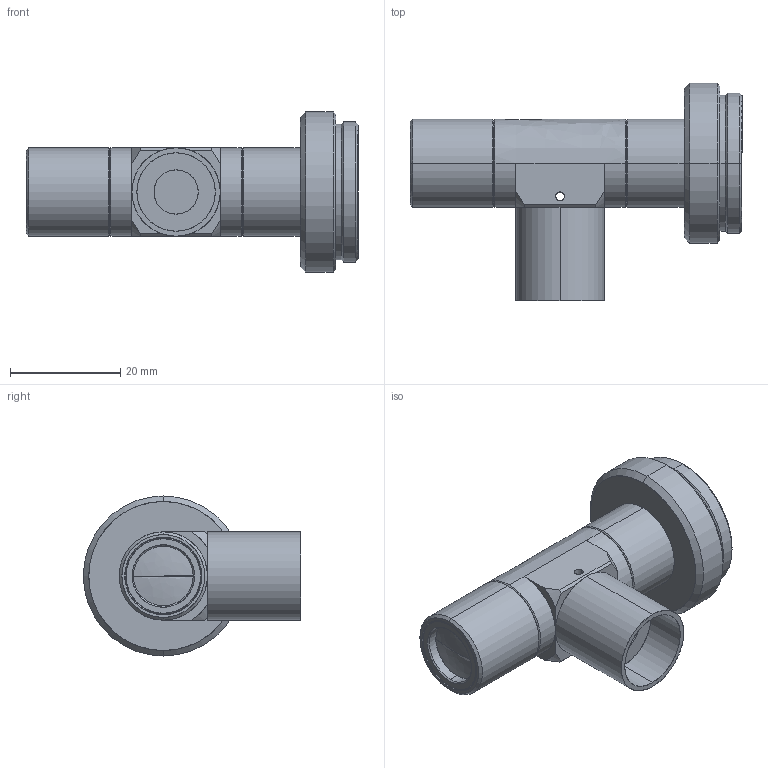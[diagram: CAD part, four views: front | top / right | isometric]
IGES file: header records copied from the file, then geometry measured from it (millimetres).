
Start section: SolidWorks IGES file using analytic representation for surfaces
Bounding box: 60.17 x 39.4 x 29 mm (x, y, z)
Surface area: 7925.4 mm2 (no closed solid volume)
Topology: 0 solids, 0 shells, 115 faces, 1540 edges, 1538 vertices
Faces by surface type: revolution 91, bspline 24
